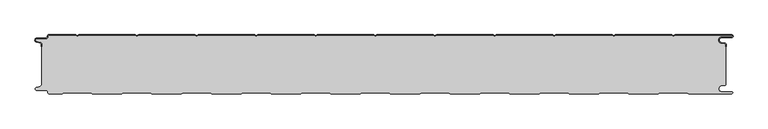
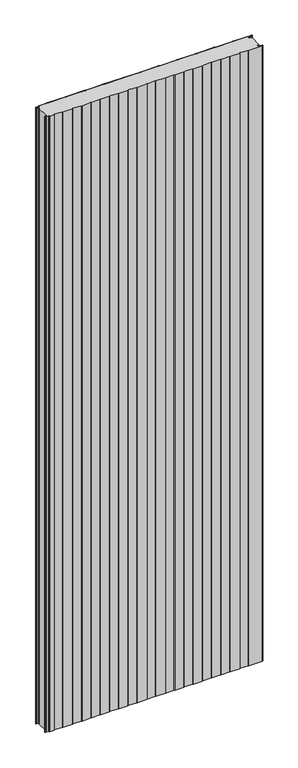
"""IFC4 building model written with IfcOpenShell, lengths in millimetres: plate geometry, Curtain-Panel_Doble-Panel-Acústico_Perfil-estándar-PM1 : ACH_Doble-Panel-Acústico_PM1_100-200-100."""

from ifc_helpers import new_model, si_unit, point, frame, frame_2d, origin, origin_with_axes, place, context, project, spatial, polyline, circle_curve, trimmed, segment, composite_curve, outline, extrude, source, transform, mapped, element, save
from ifc_brep_helpers import plane_surface, cylinder_surface, revolved_surface, advanced_brep


def plate_ad094080(model_context):
    return source(origin(), model_context, "Body", "SolidModel", [
        advanced_brep(
        [(-575.0, -315.878557, 3500.0), (-575.0, -320.0, 3500.0), (-574.2, -320.0, 3500.0), (-574.2, -315.878557, 3500.0), (-576.370137, -313.1503208, 3500.0), (-582.529863, -311.728236, 3500.0), (-581.9, -306.2, 3500.0), (-566.4, -306.2, 3500.0), (-563.6, -303.4, 3500.0), (-563.6, -302.0, 3500.0), (-562.4, -300.8, 3500.0), (-517.3143588, -300.8, 3500.0), (-514.4, -302.482606, 3500.0), (-511.4856412, -300.8, 3500.0), (-417.3143588, -300.8, 3500.0), (-414.4, -302.482606, 3500.0), (-411.4856412, -300.8, 3500.0), (-317.3143588, -300.8, 3500.0), (-314.4, -302.482606, 3500.0), (-311.4856412, -300.8, 3500.0), (-217.3143588, -300.8, 3500.0), (-214.4, -302.482606, 3500.0), (-211.4856412, -300.8, 3500.0), (-117.3143588, -300.8, 3500.0), (-114.4, -302.482606, 3500.0), (-111.4856412, -300.8, 3500.0), (-17.3143588, -300.8, 3500.0), (-14.4, -302.482606, 3500.0), (-11.4856412, -300.8, 3500.0), (82.6856412, -300.8, 3500.0), (85.6, -302.482606, 3500.0), (88.5143588, -300.8, 3500.0), (182.6856412, -300.8, 3500.0), (185.6, -302.482606, 3500.0), (188.5143588, -300.8, 3500.0), (282.6856412, -300.8, 3500.0), (285.6, -302.482606, 3500.0), (288.5143588, -300.8, 3500.0), (382.6856412, -300.8, 3500.0), (385.6, -302.482606, 3500.0), (388.5143588, -300.8, 3500.0), (482.6856412, -300.8, 3500.0), (485.6, -302.482606, 3500.0), (488.5143588, -300.8, 3500.0), (583.1, -300.8, 3500.0), (583.1, -304.2, 3500.0), (566.1, -304.2, 3500.0), (565.2664884, -313.7270771, 3500.0), (571.7125669, -314.8636953, 3500.0), (573.2, -316.6363492, 3500.0), (573.2, -320.0, 3500.0), (574.0, -320.0, 3500.0), (574.0, -316.6363492, 3500.0), (571.8514855, -314.0758491, 3500.0), (565.405407, -312.939231, 3500.0), (566.1, -305.0, 3500.0), (583.1, -305.0, 3500.0), (585.6, -302.5, 3500.0), (583.1, -300.0, 3500.0), (488.2999995, -300.0, 3500.0), (485.6, -301.5588455, 3500.0), (482.9000005, -300.0, 3500.0), (388.2999995, -300.0, 3500.0), (385.6, -301.5588455, 3500.0), (382.9000005, -300.0, 3500.0), (288.2999995, -300.0, 3500.0), (285.6, -301.5588455, 3500.0), (282.9000005, -300.0, 3500.0), (188.2999995, -300.0, 3500.0), (185.6, -301.5588455, 3500.0), (182.9000005, -300.0, 3500.0), (88.2999995, -300.0, 3500.0), (85.6, -301.5588455, 3500.0), (82.9000005, -300.0, 3500.0), (-11.7000005, -300.0, 3500.0), (-14.4, -301.5588455, 3500.0), (-17.0999995, -300.0, 3500.0), (-111.7000005, -300.0, 3500.0), (-114.4, -301.5588455, 3500.0), (-117.0999995, -300.0, 3500.0), (-211.7000005, -300.0, 3500.0), (-214.4, -301.5588455, 3500.0), (-217.0999995, -300.0, 3500.0), (-311.7000005, -300.0, 3500.0), (-314.4, -301.5588455, 3500.0), (-317.0999995, -300.0, 3500.0), (-411.7000005, -300.0, 3500.0), (-414.4, -301.5588455, 3500.0), (-417.0999995, -300.0, 3500.0), (-511.7000005, -300.0, 3500.0), (-514.4, -301.5588455, 3500.0), (-517.0999995, -300.0, 3500.0), (-562.4, -300.0, 3500.0), (-564.4, -302.0, 3500.0), (-564.4, -303.4, 3500.0), (-566.4, -305.4, 3500.0), (-581.9, -305.4, 3500.0), (-582.7098239, -312.5077322, 3500.0), (-576.5500979, -313.929817, 3500.0), (-575.0, -315.878557, 0.0), (-576.5500978, -313.9298169, 0.0), (-582.7098239, -312.507732, 0.0), (-581.9, -305.4, 0.0), (-566.4, -305.4, 0.0), (-564.4, -303.4, 0.0), (-564.4, -302.0, 0.0), (-562.4, -300.0, 0.0), (-517.0999995, -300.0, 0.0), (-514.4, -301.5588455, 0.0), (-511.7000005, -300.0, 0.0), (-417.0999995, -300.0, 0.0), (-414.4, -301.5588455, 0.0), (-411.7000005, -300.0, 0.0), (-317.0999995, -300.0, 0.0), (-314.4, -301.5588455, 0.0), (-311.7000005, -300.0, 0.0), (-217.0999995, -300.0, 0.0), (-214.4, -301.5588455, 0.0), (-211.7000005, -300.0, 0.0), (-117.0999995, -300.0, 0.0), (-114.4, -301.5588455, 0.0), (-111.7000005, -300.0, 0.0), (-17.0999995, -300.0, 0.0), (-14.4, -301.5588455, 0.0), (-11.7000005, -300.0, 0.0), (82.9000005, -300.0, 0.0), (85.6, -301.5588455, 0.0), (88.2999995, -300.0, 0.0), (182.9000005, -300.0, 0.0), (185.6, -301.5588455, 0.0), (188.2999995, -300.0, 0.0), (282.9000005, -300.0, 0.0), (285.6, -301.5588455, 0.0), (288.2999995, -300.0, 0.0), (382.9000005, -300.0, 0.0), (385.6, -301.5588455, 0.0), (388.2999995, -300.0, 0.0), (482.9000005, -300.0, 0.0), (485.6, -301.5588455, 0.0), (488.2999995, -300.0, 0.0), (583.1, -300.0, 0.0), (585.6, -302.5, 0.0), (583.1, -305.0, 0.0), (566.1, -305.0, 0.0), (565.405407, -312.939231, 0.0), (571.8514855, -314.0758491, 0.0), (574.0, -316.6363492, 0.0), (574.0, -320.0, 0.0), (573.2, -320.0, 0.0), (573.2, -316.6363492, 0.0), (571.7125669, -314.8636953, 0.0), (565.2664884, -313.7270772, 0.0), (566.1, -304.2, 0.0), (583.1, -304.2, 0.0), (583.1, -300.8, 0.0), (488.5143588, -300.8, 0.0), (485.6, -302.482606, 0.0), (482.6856412, -300.8, 0.0), (388.5143588, -300.8, 0.0), (385.6, -302.482606, 0.0), (382.6856412, -300.8, 0.0), (288.5143588, -300.8, 0.0), (285.6, -302.482606, 0.0), (282.6856412, -300.8, 0.0), (188.5143588, -300.8, 0.0), (185.6, -302.482606, 0.0), (182.6856412, -300.8, 0.0), (88.5143588, -300.8, 0.0), (85.6, -302.482606, 0.0), (82.6856412, -300.8, 0.0), (-11.4856412, -300.8, 0.0), (-14.4, -302.482606, 0.0), (-17.3143588, -300.8, 0.0), (-111.4856412, -300.8, 0.0), (-114.4, -302.482606, 0.0), (-117.3143588, -300.8, 0.0), (-211.4856412, -300.8, 0.0), (-214.4, -302.482606, 0.0), (-217.3143588, -300.8, 0.0), (-311.4856412, -300.8, 0.0), (-314.4, -302.482606, 0.0), (-317.3143588, -300.8, 0.0), (-411.4856412, -300.8, 0.0), (-414.4, -302.482606, 0.0), (-417.3143588, -300.8, 0.0), (-511.4856412, -300.8, 0.0), (-514.4, -302.482606, 0.0), (-517.3143588, -300.8, 0.0), (-562.4, -300.8, 0.0), (-563.6, -302.0, 0.0), (-563.6, -303.4, 0.0), (-566.4, -306.2, 0.0), (-581.9, -306.2, 0.0), (-582.529863, -311.7282362, 0.0), (-576.370137, -313.150321, 0.0), (-574.2, -315.878557, 0.0), (-574.2, -320.0, 0.0), (-575.0, -320.0, 0.0)],
        [
            (0, 1),
            (1, 2),
            (2, 3),
            (3, 4, circle_curve(frame((-577.0, -315.878557, 3500.0), z_axis=(0.0, 0.0, 1.0), x_axis=(1.0, 0.0, 0.0)), 2.8)),
            (4, 5),
            (5, 6, circle_curve(frame((-581.9, -309.0, 3500.0), z_axis=(0.0, 0.0, -1.0), x_axis=(1.0, 0.0, 0.0)), 2.8)),
            (6, 7),
            (7, 8, circle_curve(frame((-566.4, -303.4, 3500.0), z_axis=(0.0, 0.0, 1.0), x_axis=(1.0, 0.0, 0.0)), 2.8)),
            (8, 9),
            (9, 10, circle_curve(frame((-562.4, -302.0, 3500.0), z_axis=(0.0, 0.0, -1.0), x_axis=(1.0, 0.0, 0.0)), 1.2)),
            (10, 11),
            (11, 12),
            (12, 13),
            (13, 14),
            (14, 15),
            (15, 16),
            (16, 17),
            (17, 18),
            (18, 19),
            (19, 20),
            (20, 21),
            (21, 22),
            (22, 23),
            (23, 24),
            (24, 25),
            (25, 26),
            (26, 27),
            (27, 28),
            (28, 29),
            (29, 30),
            (30, 31),
            (31, 32),
            (32, 33),
            (33, 34),
            (34, 35),
            (35, 36),
            (36, 37),
            (37, 38),
            (38, 39),
            (39, 40),
            (40, 41),
            (41, 42),
            (42, 43),
            (43, 44),
            (44, 45, circle_curve(frame((583.1, -302.5, 3500.0), z_axis=(0.0, 0.0, -1.0), x_axis=(1.0, 0.0, 0.0)), 1.7)),
            (45, 46),
            (46, 47, circle_curve(frame((566.1, -309.0, 3500.0), z_axis=(0.0, 0.0, 1.0), x_axis=(1.0, 0.0, 0.0)), 4.8)),
            (47, 48),
            (48, 49, circle_curve(frame((571.4, -316.6363492, 3500.0), z_axis=(0.0, 0.0, -1.0), x_axis=(1.0, 0.0, 0.0)), 1.8)),
            (49, 50),
            (50, 51),
            (51, 52),
            (52, 53, circle_curve(frame((571.4, -316.6363492, 3500.0), z_axis=(0.0, 0.0, 1.0), x_axis=(1.0, 0.0, 0.0)), 2.6)),
            (53, 54),
            (54, 55, circle_curve(frame((566.1, -309.0, 3500.0), z_axis=(0.0, 0.0, -1.0), x_axis=(1.0, 0.0, 0.0)), 4.0)),
            (55, 56),
            (56, 57, circle_curve(frame((583.1, -302.5, 3500.0), z_axis=(0.0, 0.0, 1.0), x_axis=(1.0, 0.0, 0.0)), 2.5)),
            (57, 58, circle_curve(frame((583.1, -302.5, 3500.0), z_axis=(0.0, 0.0, 1.0), x_axis=(1.0, 0.0, 0.0)), 2.5)),
            (58, 59),
            (59, 60),
            (60, 61),
            (61, 62),
            (62, 63),
            (63, 64),
            (64, 65),
            (65, 66),
            (66, 67),
            (67, 68),
            (68, 69),
            (69, 70),
            (70, 71),
            (71, 72),
            (72, 73),
            (73, 74),
            (74, 75),
            (75, 76),
            (76, 77),
            (77, 78),
            (78, 79),
            (79, 80),
            (80, 81),
            (81, 82),
            (82, 83),
            (83, 84),
            (84, 85),
            (85, 86),
            (86, 87),
            (87, 88),
            (88, 89),
            (89, 90),
            (90, 91),
            (91, 92),
            (92, 93, circle_curve(frame((-562.4, -302.0, 3500.0), z_axis=(0.0, 0.0, 1.0), x_axis=(1.0, 0.0, 0.0)), 2.0)),
            (93, 94),
            (94, 95, circle_curve(frame((-566.4, -303.4, 3500.0), z_axis=(0.0, 0.0, -1.0), x_axis=(1.0, 0.0, 0.0)), 2.0)),
            (95, 96),
            (96, 97, circle_curve(frame((-581.9, -309.0, 3500.0), z_axis=(0.0, 0.0, 1.0), x_axis=(1.0, 0.0, 0.0)), 3.6)),
            (97, 98),
            (98, 0, circle_curve(frame((-577.0, -315.878557, 3500.0), z_axis=(0.0, 0.0, -1.0), x_axis=(1.0, 0.0, 0.0)), 2.0)),
            (99, 100, circle_curve(frame((-577.0, -315.878557, 0.0), z_axis=(0.0, 0.0, 1.0), x_axis=(1.0, 0.0, 0.0)), 2.0)),
            (100, 101),
            (101, 102, circle_curve(frame((-581.9, -309.0, 0.0), z_axis=(0.0, 0.0, -1.0), x_axis=(1.0, 0.0, 0.0)), 3.6)),
            (102, 103),
            (103, 104, circle_curve(frame((-566.4, -303.4, 0.0), z_axis=(0.0, 0.0, 1.0), x_axis=(1.0, 0.0, 0.0)), 2.0)),
            (104, 105),
            (105, 106, circle_curve(frame((-562.4, -302.0, 0.0), z_axis=(0.0, 0.0, -1.0), x_axis=(1.0, 0.0, 0.0)), 2.0)),
            (106, 107),
            (107, 108),
            (108, 109),
            (109, 110),
            (110, 111),
            (111, 112),
            (112, 113),
            (113, 114),
            (114, 115),
            (115, 116),
            (116, 117),
            (117, 118),
            (118, 119),
            (119, 120),
            (120, 121),
            (121, 122),
            (122, 123),
            (123, 124),
            (124, 125),
            (125, 126),
            (126, 127),
            (127, 128),
            (128, 129),
            (129, 130),
            (130, 131),
            (131, 132),
            (132, 133),
            (133, 134),
            (134, 135),
            (135, 136),
            (136, 137),
            (137, 138),
            (138, 139),
            (139, 140),
            (140, 141, circle_curve(frame((583.1, -302.5, 0.0), z_axis=(0.0, 0.0, -1.0), x_axis=(1.0, 0.0, 0.0)), 2.5)),
            (141, 142, circle_curve(frame((583.1, -302.5, 0.0), z_axis=(0.0, 0.0, -1.0), x_axis=(1.0, 0.0, 0.0)), 2.5)),
            (142, 143),
            (143, 144, circle_curve(frame((566.1, -309.0, 0.0), z_axis=(0.0, 0.0, 1.0), x_axis=(1.0, 0.0, 0.0)), 4.0)),
            (144, 145),
            (145, 146, circle_curve(frame((571.4, -316.6363492, 0.0), z_axis=(0.0, 0.0, -1.0), x_axis=(1.0, 0.0, 0.0)), 2.6)),
            (146, 147),
            (147, 148),
            (148, 149),
            (149, 150, circle_curve(frame((571.4, -316.6363492, 0.0), z_axis=(0.0, 0.0, 1.0), x_axis=(1.0, 0.0, 0.0)), 1.8)),
            (150, 151),
            (151, 152, circle_curve(frame((566.1, -309.0, 0.0), z_axis=(0.0, 0.0, -1.0), x_axis=(1.0, 0.0, 0.0)), 4.8)),
            (152, 153),
            (153, 154, circle_curve(frame((583.1, -302.5, 0.0), z_axis=(0.0, 0.0, 1.0), x_axis=(1.0, 0.0, 0.0)), 1.7)),
            (154, 155),
            (155, 156),
            (156, 157),
            (157, 158),
            (158, 159),
            (159, 160),
            (160, 161),
            (161, 162),
            (162, 163),
            (163, 164),
            (164, 165),
            (165, 166),
            (166, 167),
            (167, 168),
            (168, 169),
            (169, 170),
            (170, 171),
            (171, 172),
            (172, 173),
            (173, 174),
            (174, 175),
            (175, 176),
            (176, 177),
            (177, 178),
            (178, 179),
            (179, 180),
            (180, 181),
            (181, 182),
            (182, 183),
            (183, 184),
            (184, 185),
            (185, 186),
            (186, 187),
            (187, 188),
            (188, 189, circle_curve(frame((-562.4, -302.0, 0.0), z_axis=(0.0, 0.0, 1.0), x_axis=(1.0, 0.0, 0.0)), 1.2)),
            (189, 190),
            (190, 191, circle_curve(frame((-566.4, -303.4, 0.0), z_axis=(0.0, 0.0, -1.0), x_axis=(1.0, 0.0, 0.0)), 2.8)),
            (191, 192),
            (192, 193, circle_curve(frame((-581.9, -309.0, 0.0), z_axis=(0.0, 0.0, 1.0), x_axis=(1.0, 0.0, 0.0)), 2.8)),
            (193, 194),
            (194, 195, circle_curve(frame((-577.0, -315.878557, 0.0), z_axis=(0.0, 0.0, -1.0), x_axis=(1.0, 0.0, 0.0)), 2.8)),
            (195, 196),
            (196, 197),
            (197, 99),
            (0, 99),
            (197, 1),
            (196, 2),
            (195, 3),
            (194, 4),
            (193, 5),
            (192, 6),
            (191, 7),
            (190, 8),
            (189, 9),
            (188, 10),
            (187, 11),
            (186, 12),
            (185, 13),
            (184, 14),
            (183, 15),
            (182, 16),
            (181, 17),
            (180, 18),
            (179, 19),
            (178, 20),
            (177, 21),
            (176, 22),
            (175, 23),
            (174, 24),
            (173, 25),
            (172, 26),
            (171, 27),
            (170, 28),
            (169, 29),
            (168, 30),
            (167, 31),
            (166, 32),
            (165, 33),
            (164, 34),
            (163, 35),
            (162, 36),
            (161, 37),
            (160, 38),
            (159, 39),
            (158, 40),
            (157, 41),
            (156, 42),
            (155, 43),
            (154, 44),
            (153, 45),
            (152, 46),
            (151, 47),
            (150, 48),
            (149, 49),
            (148, 50),
            (147, 51),
            (146, 52),
            (145, 53),
            (144, 54),
            (143, 55),
            (142, 56),
            (140, 58),
            (139, 59),
            (138, 60),
            (137, 61),
            (136, 62),
            (135, 63),
            (134, 64),
            (133, 65),
            (132, 66),
            (131, 67),
            (130, 68),
            (129, 69),
            (128, 70),
            (127, 71),
            (126, 72),
            (125, 73),
            (124, 74),
            (123, 75),
            (122, 76),
            (121, 77),
            (120, 78),
            (119, 79),
            (118, 80),
            (117, 81),
            (116, 82),
            (115, 83),
            (114, 84),
            (113, 85),
            (112, 86),
            (111, 87),
            (110, 88),
            (109, 89),
            (108, 90),
            (107, 91),
            (106, 92),
            (105, 93),
            (104, 94),
            (103, 95),
            (102, 96),
            (101, 97),
            (100, 98),
        ],
        [
            plane_surface(frame((-575.0, -300.0, 3500.0), z_axis=(0.0, 0.0, 1.0), x_axis=(0.0, 1.0, 0.0))),
            plane_surface(frame((-575.0, -300.0, 0.0), z_axis=(0.0, 0.0, -1.0), x_axis=(0.0, 1.0, 0.0))),
            plane_surface(frame((-575.0, -315.878557, 3500.0), z_axis=(-1.0, 0.0, 0.0), x_axis=(0.0, 0.0, -1.0))),
            plane_surface(frame((-575.0, -320.0, 3500.0), z_axis=(0.0, -1.0, 0.0), x_axis=(0.0, 0.0, -1.0))),
            plane_surface(frame((-574.2, -320.0, 3500.0), z_axis=(1.0, 0.0, 0.0), x_axis=(0.0, 0.0, -1.0))),
            cylinder_surface(frame((-577.0, -315.878557, 3500.0), z_axis=(0.0, 0.0, 1.0), x_axis=(1.0, 0.0, 0.0)), 2.8),
            plane_surface(frame((-576.370137, -313.150321, 3500.0), z_axis=(0.22495108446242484, 0.9743700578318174, 0.0), x_axis=(0.0, 0.0, -1.0))),
            revolved_surface(polyline([(-579.1, -309.0, 0.0), (-579.1, -309.0, 3500.0)]), (-581.9, -309.0, 3500.0), (0.0, 0.0, -1.0)),
            plane_surface(frame((-581.9, -306.2, 3500.0), z_axis=(0.0, -1.0, 0.0), x_axis=(0.0, 0.0, -1.0))),
            cylinder_surface(frame((-566.4, -303.4, 3500.0), z_axis=(0.0, 0.0, 1.0), x_axis=(1.0, 0.0, 0.0)), 2.8),
            plane_surface(frame((-563.6, -303.4, 3500.0), z_axis=(1.0, 0.0, 0.0), x_axis=(0.0, 0.0, -1.0))),
            revolved_surface(polyline([(-561.1999999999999, -302.0, 0.0), (-561.1999999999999, -302.0, 3500.0)]), (-562.4, -302.0, 3500.0), (0.0, 0.0, -1.0)),
            plane_surface(frame((-562.4, -300.8, 3500.0), z_axis=(0.0, -1.0, 0.0), x_axis=(0.0, 0.0, -1.0))),
            plane_surface(frame((-517.3143588, -300.8, 3500.0), z_axis=(-0.5000000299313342, -0.8660253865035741, 0.0), x_axis=(0.0, 0.0, -1.0))),
            plane_surface(frame((-514.4, -302.482606, 3500.0), z_axis=(0.5000000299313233, -0.8660253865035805, 0.0), x_axis=(0.0, 0.0, -1.0))),
            plane_surface(frame((-511.4856412, -300.8, 3500.0), z_axis=(0.0, -1.0, 0.0), x_axis=(0.0, 0.0, -1.0))),
            plane_surface(frame((-417.3143588, -300.8, 3500.0), z_axis=(-0.5000000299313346, -0.8660253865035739, 0.0), x_axis=(0.0, 0.0, -1.0))),
            plane_surface(frame((-414.4, -302.482606, 3500.0), z_axis=(0.5000000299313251, -0.8660253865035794, 0.0), x_axis=(0.0, 0.0, -1.0))),
            plane_surface(frame((-411.4856412, -300.8, 3500.0), z_axis=(0.0, -1.0, 0.0), x_axis=(0.0, 0.0, -1.0))),
            plane_surface(frame((-317.3143588, -300.8, 3500.0), z_axis=(-0.5000000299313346, -0.866025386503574, 0.0), x_axis=(0.0, 0.0, -1.0))),
            plane_surface(frame((-314.4, -302.482606, 3500.0), z_axis=(0.5000000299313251, -0.8660253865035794, 0.0), x_axis=(0.0, 0.0, -1.0))),
            plane_surface(frame((-311.4856412, -300.8, 3500.0), z_axis=(0.0, -1.0, 0.0), x_axis=(0.0, 0.0, -1.0))),
            plane_surface(frame((-217.3143588, -300.8, 3500.0), z_axis=(-0.5000000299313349, -0.8660253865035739, 0.0), x_axis=(0.0, 0.0, -1.0))),
            plane_surface(frame((-214.4, -302.482606, 3500.0), z_axis=(0.5000000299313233, -0.8660253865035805, 0.0), x_axis=(0.0, 0.0, -1.0))),
            plane_surface(frame((-211.4856412, -300.8, 3500.0), z_axis=(0.0, -1.0, 0.0), x_axis=(0.0, 0.0, -1.0))),
            plane_surface(frame((-117.3143588, -300.8, 3500.0), z_axis=(-0.5000000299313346, -0.866025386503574, 0.0), x_axis=(0.0, 0.0, -1.0))),
            plane_surface(frame((-114.4, -302.482606, 3500.0), z_axis=(0.5000000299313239, -0.8660253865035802, 0.0), x_axis=(0.0, 0.0, -1.0))),
            plane_surface(frame((-111.4856412, -300.8, 3500.0), z_axis=(0.0, -1.0, 0.0), x_axis=(0.0, 0.0, -1.0))),
            plane_surface(frame((-17.3143588, -300.8, 3500.0), z_axis=(-0.5000000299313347, -0.8660253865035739, 0.0), x_axis=(0.0, 0.0, -1.0))),
            plane_surface(frame((-14.4, -302.482606, 3500.0), z_axis=(0.5000000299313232, -0.8660253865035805, 0.0), x_axis=(0.0, 0.0, -1.0))),
            plane_surface(frame((-11.4856412, -300.8, 3500.0), z_axis=(0.0, -1.0, 0.0), x_axis=(0.0, 0.0, -1.0))),
            plane_surface(frame((82.6856412, -300.8, 3500.0), z_axis=(-0.5000000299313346, -0.866025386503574, 0.0), x_axis=(0.0, 0.0, -1.0))),
            plane_surface(frame((85.6, -302.482606, 3500.0), z_axis=(0.5000000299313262, -0.8660253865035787, 0.0), x_axis=(0.0, 0.0, -1.0))),
            plane_surface(frame((88.5143588, -300.8, 3500.0), z_axis=(0.0, -1.0, 0.0), x_axis=(0.0, 0.0, -1.0))),
            plane_surface(frame((182.6856412, -300.8, 3500.0), z_axis=(-0.5000000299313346, -0.8660253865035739, 0.0), x_axis=(0.0, 0.0, -1.0))),
            plane_surface(frame((185.6, -302.482606, 3500.0), z_axis=(0.5000000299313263, -0.8660253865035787, 0.0), x_axis=(0.0, 0.0, -1.0))),
            plane_surface(frame((188.5143588, -300.8, 3500.0), z_axis=(0.0, -1.0, 0.0), x_axis=(0.0, 0.0, -1.0))),
            plane_surface(frame((282.6856412, -300.8, 3500.0), z_axis=(-0.5000000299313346, -0.8660253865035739, 0.0), x_axis=(0.0, 0.0, -1.0))),
            plane_surface(frame((285.6, -302.482606, 3500.0), z_axis=(0.5000000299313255, -0.8660253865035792, 0.0), x_axis=(0.0, 0.0, -1.0))),
            plane_surface(frame((288.5143588, -300.8, 3500.0), z_axis=(0.0, -1.0, 0.0), x_axis=(0.0, 0.0, -1.0))),
            plane_surface(frame((382.6856412, -300.8, 3500.0), z_axis=(-0.5000000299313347, -0.8660253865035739, 0.0), x_axis=(0.0, 0.0, -1.0))),
            plane_surface(frame((385.6, -302.482606, 3500.0), z_axis=(0.5000000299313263, -0.8660253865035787, 0.0), x_axis=(0.0, 0.0, -1.0))),
            plane_surface(frame((388.5143588, -300.8, 3500.0), z_axis=(0.0, -1.0, 0.0), x_axis=(0.0, 0.0, -1.0))),
            plane_surface(frame((482.6856412, -300.8, 3500.0), z_axis=(-0.5000000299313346, -0.866025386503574, 0.0), x_axis=(0.0, 0.0, -1.0))),
            plane_surface(frame((485.6, -302.482606, 3500.0), z_axis=(0.5000000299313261, -0.8660253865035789, 0.0), x_axis=(0.0, 0.0, -1.0))),
            plane_surface(frame((535.6, -300.8, 3500.0), z_axis=(0.0, -1.0, 0.0), x_axis=(0.0, 0.0, -1.0))),
            revolved_surface(polyline([(584.8000000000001, -302.5, 0.0), (584.8000000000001, -302.5, 3500.0)]), (583.1, -302.5, 3500.0), (0.0, 0.0, -1.0)),
            plane_surface(frame((583.1, -304.2, 3500.0), z_axis=(0.0, 1.0, 0.0), x_axis=(0.0, 0.0, -1.0))),
            cylinder_surface(frame((566.1, -309.0, 3500.0), z_axis=(0.0, 0.0, 1.0), x_axis=(1.0, 0.0, 0.0)), 4.8),
            plane_surface(frame((565.2664884, -313.7270772, 3500.0), z_axis=(-0.17364825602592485, -0.9848077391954, 0.0), x_axis=(0.0, 0.0, -1.0))),
            revolved_surface(polyline([(573.1999999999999, -316.6363492, 0.0), (573.1999999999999, -316.6363492, 3500.0)]), (571.4, -316.6363492, 3500.0), (0.0, 0.0, -1.0)),
            plane_surface(frame((573.2, -316.6363492, 3500.0), z_axis=(-1.0, 0.0, 0.0), x_axis=(0.0, 0.0, -1.0))),
            plane_surface(frame((573.2, -320.0, 3500.0), z_axis=(0.0, -1.0, 0.0), x_axis=(0.0, 0.0, -1.0))),
            plane_surface(frame((574.0, -320.0, 3500.0), z_axis=(1.0, 0.0, 0.0), x_axis=(0.0, 0.0, -1.0))),
            cylinder_surface(frame((571.4, -316.6363492, 3500.0), z_axis=(0.0, 0.0, 1.0), x_axis=(1.0, 0.0, 0.0)), 2.6),
            plane_surface(frame((571.8514855, -314.0758491, 3500.0), z_axis=(0.1736482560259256, 0.9848077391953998, 0.0), x_axis=(0.0, 0.0, -1.0))),
            revolved_surface(polyline([(570.1, -309.0, 0.0), (570.1, -309.0, 3500.0)]), (566.1, -309.0, 3500.0), (0.0, 0.0, -1.0)),
            plane_surface(frame((566.1, -305.0, 3500.0), z_axis=(0.0, -1.0, 0.0), x_axis=(0.0, 0.0, -1.0))),
            cylinder_surface(frame((583.1, -302.5, 3500.0), z_axis=(0.0, 0.0, 1.0), x_axis=(1.0, 0.0, 0.0)), 2.5),
            plane_surface(frame((535.6, -300.0, 3500.0), z_axis=(0.0, 1.0, 0.0), x_axis=(0.0, 0.0, -1.0))),
            plane_surface(frame((488.2999995, -300.0, 3500.0), z_axis=(-0.5000000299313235, 0.8660253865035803, 0.0), x_axis=(0.0, 0.0, -1.0))),
            plane_surface(frame((485.6, -301.5588455, 3500.0), z_axis=(0.5000000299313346, 0.8660253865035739, 0.0), x_axis=(0.0, 0.0, -1.0))),
            plane_surface(frame((482.9000005, -300.0, 3500.0), z_axis=(0.0, 1.0, 0.0), x_axis=(0.0, 0.0, -1.0))),
            plane_surface(frame((388.2999995, -300.0, 3500.0), z_axis=(-0.5000000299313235, 0.8660253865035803, 0.0), x_axis=(0.0, 0.0, -1.0))),
            plane_surface(frame((385.6, -301.5588455, 3500.0), z_axis=(0.5000000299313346, 0.8660253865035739, 0.0), x_axis=(0.0, 0.0, -1.0))),
            plane_surface(frame((382.9000005, -300.0, 3500.0), z_axis=(0.0, 1.0, 0.0), x_axis=(0.0, 0.0, -1.0))),
            plane_surface(frame((288.2999995, -300.0, 3500.0), z_axis=(-0.5000000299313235, 0.8660253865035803, 0.0), x_axis=(0.0, 0.0, -1.0))),
            plane_surface(frame((285.6, -301.5588455, 3500.0), z_axis=(0.5000000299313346, 0.8660253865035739, 0.0), x_axis=(0.0, 0.0, -1.0))),
            plane_surface(frame((282.9000005, -300.0, 3500.0), z_axis=(0.0, 1.0, 0.0), x_axis=(0.0, 0.0, -1.0))),
            plane_surface(frame((188.2999995, -300.0, 3500.0), z_axis=(-0.5000000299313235, 0.8660253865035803, 0.0), x_axis=(0.0, 0.0, -1.0))),
            plane_surface(frame((185.6, -301.5588455, 3500.0), z_axis=(0.5000000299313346, 0.8660253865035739, 0.0), x_axis=(0.0, 0.0, -1.0))),
            plane_surface(frame((182.9000005, -300.0, 3500.0), z_axis=(0.0, 1.0, 0.0), x_axis=(0.0, 0.0, -1.0))),
            plane_surface(frame((88.2999995, -300.0, 3500.0), z_axis=(-0.5000000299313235, 0.8660253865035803, 0.0), x_axis=(0.0, 0.0, -1.0))),
            plane_surface(frame((85.6, -301.5588455, 3500.0), z_axis=(0.5000000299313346, 0.8660253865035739, 0.0), x_axis=(0.0, 0.0, -1.0))),
            plane_surface(frame((82.9000005, -300.0, 3500.0), z_axis=(0.0, 1.0, 0.0), x_axis=(0.0, 0.0, -1.0))),
            plane_surface(frame((-11.7000005, -300.0, 3500.0), z_axis=(-0.5000000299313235, 0.8660253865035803, 0.0), x_axis=(0.0, 0.0, -1.0))),
            plane_surface(frame((-14.4, -301.5588455, 3500.0), z_axis=(0.5000000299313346, 0.8660253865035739, 0.0), x_axis=(0.0, 0.0, -1.0))),
            plane_surface(frame((-17.0999995, -300.0, 3500.0), z_axis=(0.0, 1.0, 0.0), x_axis=(0.0, 0.0, -1.0))),
            plane_surface(frame((-111.7000005, -300.0, 3500.0), z_axis=(-0.5000000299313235, 0.8660253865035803, 0.0), x_axis=(0.0, 0.0, -1.0))),
            plane_surface(frame((-114.4, -301.5588455, 3500.0), z_axis=(0.5000000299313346, 0.8660253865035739, 0.0), x_axis=(0.0, 0.0, -1.0))),
            plane_surface(frame((-117.0999995, -300.0, 3500.0), z_axis=(0.0, 1.0, 0.0), x_axis=(0.0, 0.0, -1.0))),
            plane_surface(frame((-211.7000005, -300.0, 3500.0), z_axis=(-0.5000000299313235, 0.8660253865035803, 0.0), x_axis=(0.0, 0.0, -1.0))),
            plane_surface(frame((-214.4, -301.5588455, 3500.0), z_axis=(0.5000000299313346, 0.8660253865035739, 0.0), x_axis=(0.0, 0.0, -1.0))),
            plane_surface(frame((-217.0999995, -300.0, 3500.0), z_axis=(0.0, 1.0, 0.0), x_axis=(0.0, 0.0, -1.0))),
            plane_surface(frame((-311.7000005, -300.0, 3500.0), z_axis=(-0.5000000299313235, 0.8660253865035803, 0.0), x_axis=(0.0, 0.0, -1.0))),
            plane_surface(frame((-314.4, -301.5588455, 3500.0), z_axis=(0.5000000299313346, 0.8660253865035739, 0.0), x_axis=(0.0, 0.0, -1.0))),
            plane_surface(frame((-317.0999995, -300.0, 3500.0), z_axis=(0.0, 1.0, 0.0), x_axis=(0.0, 0.0, -1.0))),
            plane_surface(frame((-411.7000005, -300.0, 3500.0), z_axis=(-0.5000000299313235, 0.8660253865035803, 0.0), x_axis=(0.0, 0.0, -1.0))),
            plane_surface(frame((-414.4, -301.5588455, 3500.0), z_axis=(0.5000000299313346, 0.8660253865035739, 0.0), x_axis=(0.0, 0.0, -1.0))),
            plane_surface(frame((-417.0999995, -300.0, 3500.0), z_axis=(0.0, 1.0, 0.0), x_axis=(0.0, 0.0, -1.0))),
            plane_surface(frame((-511.7000005, -300.0, 3500.0), z_axis=(-0.5000000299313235, 0.8660253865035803, 0.0), x_axis=(0.0, 0.0, -1.0))),
            plane_surface(frame((-514.4, -301.5588455, 3500.0), z_axis=(0.5000000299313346, 0.8660253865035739, 0.0), x_axis=(0.0, 0.0, -1.0))),
            plane_surface(frame((-517.0999995, -300.0, 3500.0), z_axis=(0.0, 1.0, 0.0), x_axis=(0.0, 0.0, -1.0))),
            cylinder_surface(frame((-562.4, -302.0, 3500.0), z_axis=(0.0, 0.0, 1.0), x_axis=(1.0, 0.0, 0.0)), 2.0),
            plane_surface(frame((-564.4, -302.0, 3500.0), z_axis=(-1.0, 0.0, 0.0), x_axis=(0.0, 0.0, -1.0))),
            revolved_surface(polyline([(-564.4, -303.4, 0.0), (-564.4, -303.4, 3500.0)]), (-566.4, -303.4, 3500.0), (0.0, 0.0, -1.0)),
            plane_surface(frame((-566.4, -305.4, 3500.0), z_axis=(0.0, 1.0, 0.0), x_axis=(0.0, 0.0, -1.0))),
            cylinder_surface(frame((-581.9, -309.0, 3500.0), z_axis=(0.0, 0.0, 1.0), x_axis=(1.0, 0.0, 0.0)), 3.6),
            plane_surface(frame((-582.7098239, -312.507732, 3500.0), z_axis=(-0.22495108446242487, -0.9743700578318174, 0.0), x_axis=(0.0, 0.0, -1.0))),
            revolved_surface(polyline([(-575.0, -315.878557, 0.0), (-575.0, -315.878557, 3500.0)]), (-577.0, -315.878557, 3500.0), (0.0, 0.0, -1.0)),
        ],
        [
            (0, [[1, 2, 3, 4, 5, 6, 7, 8, 9, 10, 11, 12, 13, 14, 15, 16, 17, 18, 19, 20, 21, 22, 23, 24, 25, 26, 27, 28, 29, 30, 31, 32, 33, 34, 35, 36, 37, 38, 39, 40, 41, 42, 43, 44, 45, 46, 47, 48, 49, 50, 51, 52, 53, 54, 55, 56, 57, 58, 59, 60, 61, 62, 63, 64, 65, 66, 67, 68, 69, 70, 71, 72, 73, 74, 75, 76, 77, 78, 79, 80, 81, 82, 83, 84, 85, 86, 87, 88, 89, 90, 91, 92, 93, 94, 95, 96, 97, 98, 99]]),
            (1, [[100, 101, 102, 103, 104, 105, 106, 107, 108, 109, 110, 111, 112, 113, 114, 115, 116, 117, 118, 119, 120, 121, 122, 123, 124, 125, 126, 127, 128, 129, 130, 131, 132, 133, 134, 135, 136, 137, 138, 139, 140, 141, 142, 143, 144, 145, 146, 147, 148, 149, 150, 151, 152, 153, 154, 155, 156, 157, 158, 159, 160, 161, 162, 163, 164, 165, 166, 167, 168, 169, 170, 171, 172, 173, 174, 175, 176, 177, 178, 179, 180, 181, 182, 183, 184, 185, 186, 187, 188, 189, 190, 191, 192, 193, 194, 195, 196, 197, 198]]),
            (2, [[-1, 199, -198, 200]]),
            (3, [[-2, -200, -197, 201]]),
            (4, [[-3, -201, -196, 202]]),
            (5, [[-4, -202, -195, 203]]),
            (6, [[-5, -203, -194, 204]]),
            (7, [[-6, -204, -193, 205]]),
            (8, [[-7, -205, -192, 206]]),
            (9, [[-8, -206, -191, 207]]),
            (10, [[-9, -207, -190, 208]]),
            (11, [[-10, -208, -189, 209]]),
            (12, [[-11, -209, -188, 210]]),
            (13, [[-12, -210, -187, 211]]),
            (14, [[-13, -211, -186, 212]]),
            (15, [[-14, -212, -185, 213]]),
            (16, [[-15, -213, -184, 214]]),
            (17, [[-16, -214, -183, 215]]),
            (18, [[-17, -215, -182, 216]]),
            (19, [[-18, -216, -181, 217]]),
            (20, [[-19, -217, -180, 218]]),
            (21, [[-20, -218, -179, 219]]),
            (22, [[-21, -219, -178, 220]]),
            (23, [[-22, -220, -177, 221]]),
            (24, [[-23, -221, -176, 222]]),
            (25, [[-24, -222, -175, 223]]),
            (26, [[-25, -223, -174, 224]]),
            (27, [[-26, -224, -173, 225]]),
            (28, [[-27, -225, -172, 226]]),
            (29, [[-28, -226, -171, 227]]),
            (30, [[-29, -227, -170, 228]]),
            (31, [[-30, -228, -169, 229]]),
            (32, [[-31, -229, -168, 230]]),
            (33, [[-32, -230, -167, 231]]),
            (34, [[-33, -231, -166, 232]]),
            (35, [[-34, -232, -165, 233]]),
            (36, [[-35, -233, -164, 234]]),
            (37, [[-36, -234, -163, 235]]),
            (38, [[-37, -235, -162, 236]]),
            (39, [[-38, -236, -161, 237]]),
            (40, [[-39, -237, -160, 238]]),
            (41, [[-40, -238, -159, 239]]),
            (42, [[-41, -239, -158, 240]]),
            (43, [[-42, -240, -157, 241]]),
            (44, [[-43, -241, -156, 242]]),
            (45, [[-44, -242, -155, 243]]),
            (46, [[-45, -243, -154, 244]]),
            (47, [[-46, -244, -153, 245]]),
            (48, [[-47, -245, -152, 246]]),
            (49, [[-48, -246, -151, 247]]),
            (50, [[-49, -247, -150, 248]]),
            (51, [[-50, -248, -149, 249]]),
            (52, [[-51, -249, -148, 250]]),
            (53, [[-52, -250, -147, 251]]),
            (54, [[-53, -251, -146, 252]]),
            (55, [[-54, -252, -145, 253]]),
            (56, [[-55, -253, -144, 254]]),
            (57, [[-56, -254, -143, 255]]),
            (58, [[-255, -142, -141, 256, -58, -57]]),
            (59, [[-59, -256, -140, 257]]),
            (60, [[-60, -257, -139, 258]]),
            (61, [[-61, -258, -138, 259]]),
            (62, [[-62, -259, -137, 260]]),
            (63, [[-63, -260, -136, 261]]),
            (64, [[-64, -261, -135, 262]]),
            (65, [[-65, -262, -134, 263]]),
            (66, [[-66, -263, -133, 264]]),
            (67, [[-67, -264, -132, 265]]),
            (68, [[-68, -265, -131, 266]]),
            (69, [[-69, -266, -130, 267]]),
            (70, [[-70, -267, -129, 268]]),
            (71, [[-71, -268, -128, 269]]),
            (72, [[-72, -269, -127, 270]]),
            (73, [[-73, -270, -126, 271]]),
            (74, [[-74, -271, -125, 272]]),
            (75, [[-75, -272, -124, 273]]),
            (76, [[-76, -273, -123, 274]]),
            (77, [[-77, -274, -122, 275]]),
            (78, [[-78, -275, -121, 276]]),
            (79, [[-79, -276, -120, 277]]),
            (80, [[-80, -277, -119, 278]]),
            (81, [[-81, -278, -118, 279]]),
            (82, [[-82, -279, -117, 280]]),
            (83, [[-83, -280, -116, 281]]),
            (84, [[-84, -281, -115, 282]]),
            (85, [[-85, -282, -114, 283]]),
            (86, [[-86, -283, -113, 284]]),
            (87, [[-87, -284, -112, 285]]),
            (88, [[-88, -285, -111, 286]]),
            (89, [[-89, -286, -110, 287]]),
            (90, [[-90, -287, -109, 288]]),
            (91, [[-91, -288, -108, 289]]),
            (92, [[-92, -289, -107, 290]]),
            (93, [[-93, -290, -106, 291]]),
            (94, [[-94, -291, -105, 292]]),
            (95, [[-95, -292, -104, 293]]),
            (96, [[-96, -293, -103, 294]]),
            (97, [[-97, -294, -102, 295]]),
            (98, [[-98, -295, -101, 296]]),
            (99, [[-99, -296, -100, -199]]),
        ],
    ),
        extrude(outline(composite_curve([segment(polyline([(-574.2, -384.121443), (-574.2, -315.8785573)]), True, "CONTINUOUS"), segment(trimmed(circle_curve(frame_2d((-577.0, -315.8785573)), 2.8), [point((-574.2, -315.8785573))], [point((-576.370137, -313.1503212))], True, "CARTESIAN"), True, "CONTINUOUS"), segment(polyline([(-576.370137, -313.1503212), (-582.5298631, -311.7282362)]), True, "CONTINUOUS"), segment(trimmed(circle_curve(frame_2d((-581.9, -309.0)), 2.8), [point((-582.5298631, -311.7282362))], [point((-581.9, -306.2))], False, "CARTESIAN"), True, "CONTINUOUS"), segment(polyline([(-581.9, -306.2), (-566.4000001, -306.2)]), True, "CONTINUOUS"), segment(trimmed(circle_curve(frame_2d((-566.4000001, -303.4)), 2.8), [point((-566.4000001, -306.2))], [point((-563.6000001, -303.4))], True, "CARTESIAN"), True, "CONTINUOUS"), segment(polyline([(-563.6000001, -303.4), (-563.6000001, -302.0)]), True, "CONTINUOUS"), segment(trimmed(circle_curve(frame_2d((-562.4000001, -302.0)), 1.2), [point((-563.6000001, -302.0))], [point((-562.4000001, -300.8))], False, "CARTESIAN"), True, "CONTINUOUS"), segment(polyline([(-562.4000001, -300.8), (-517.3143589, -300.8), (-514.4000001, -302.482606), (-511.4856412, -300.8), (-417.3143589, -300.8), (-414.4000001, -302.482606), (-411.4856412, -300.8), (-317.3143589, -300.8), (-314.4000001, -302.482606), (-311.4856412, -300.8), (-217.3143589, -300.8), (-214.4000001, -302.482606), (-211.4856412, -300.8), (-117.3143589, -300.8), (-114.4000001, -302.482606), (-111.4856412, -300.8), (-17.3143589, -300.8), (-14.4000001, -302.482606), (-11.4856412, -300.8), (82.6856411, -300.8), (85.5999999, -302.482606), (88.5143588, -300.8), (182.6856411, -300.8), (185.5999999, -302.482606), (188.5143588, -300.8), (282.6856411, -300.8), (285.5999999, -302.482606), (288.5143588, -300.8), (382.6856411, -300.8), (385.5999999, -302.482606), (388.5143588, -300.8), (482.6856411, -300.8), (485.6, -302.482606), (488.5143588, -300.8), (583.1, -300.8)]), True, "CONTINUOUS"), segment(trimmed(circle_curve(frame_2d((583.1, -302.5)), 1.7), [point((583.1, -300.8))], [point((583.1, -304.2))], False, "CARTESIAN"), True, "CONTINUOUS"), segment(polyline([(583.1, -304.2), (566.1, -304.2)]), True, "CONTINUOUS"), segment(trimmed(circle_curve(frame_2d((566.1, -309.0)), 4.8), [point((566.1, -304.2))], [point((565.2664883, -313.7270771))], True, "CARTESIAN"), True, "CONTINUOUS"), segment(polyline([(565.2664883, -313.7270771), (571.7125668, -314.8636953)]), True, "CONTINUOUS"), segment(trimmed(circle_curve(frame_2d((571.4, -316.6363492)), 1.8), [point((571.7125668, -314.8636953))], [point((573.2, -316.6363492))], False, "CARTESIAN"), True, "CONTINUOUS"), segment(polyline([(573.2, -316.6363492), (573.2, -383.363652)]), True, "CONTINUOUS"), segment(trimmed(circle_curve(frame_2d((571.4, -383.363652)), 1.8), [point((573.2, -383.363652))], [point((571.7125666, -385.1363059))], False, "CARTESIAN"), True, "CONTINUOUS"), segment(polyline([(571.7125666, -385.1363059), (565.266489, -386.272923)]), True, "CONTINUOUS"), segment(trimmed(circle_curve(frame_2d((566.1, -391.0000002)), 4.7999999), [point((565.266489, -386.272923))], [point((566.1, -395.8000001))], True, "CARTESIAN"), True, "CONTINUOUS"), segment(polyline([(566.1, -395.8000001), (583.1, -395.8000001)]), True, "CONTINUOUS"), segment(trimmed(circle_curve(frame_2d((583.1, -397.5)), 1.7), [point((583.1, -395.8000001))], [point((583.1, -399.2))], False, "CARTESIAN"), True, "CONTINUOUS"), segment(polyline([(583.1, -399.2), (510.8105122, -399.2), (508.2124346, -397.7), (462.9837184, -397.7), (460.3856408, -399.2), (410.8105122, -399.2), (408.2124346, -397.7), (362.9837184, -397.7), (360.3856408, -399.2), (310.8105122, -399.2), (308.2124346, -397.7), (262.9837184, -397.7), (260.3856408, -399.2), (210.8105122, -399.2), (208.2124346, -397.7), (162.9837184, -397.7), (160.3856408, -399.2), (110.8105122, -399.2), (108.2124346, -397.7), (62.9837184, -397.7), (60.3856408, -399.2), (10.8105122, -399.2), (8.2124346, -397.7), (-37.0162816, -397.7), (-39.6143592, -399.2), (-89.1894878, -399.2), (-91.7875654, -397.7), (-137.0162816, -397.7), (-139.6143592, -399.2), (-189.1894878, -399.2), (-191.7875654, -397.7), (-237.0162816, -397.7), (-239.6143592, -399.2), (-289.1894878, -399.2), (-291.7875654, -397.7), (-337.0162816, -397.7), (-339.6143592, -399.2), (-389.1894878, -399.2), (-391.7875654, -397.7), (-437.0162816, -397.7), (-439.6143592, -399.2), (-489.1894878, -399.2), (-491.7875654, -397.7), (-537.0162816, -397.7), (-539.6143592, -399.2), (-562.4, -399.2)]), True, "CONTINUOUS"), segment(trimmed(circle_curve(frame_2d((-562.4, -398.0)), 1.2), [point((-562.4, -399.2))], [point((-563.6, -398.0))], False, "CARTESIAN"), True, "CONTINUOUS"), segment(polyline([(-563.6, -398.0), (-563.6, -396.5999998)]), True, "CONTINUOUS"), segment(trimmed(circle_curve(frame_2d((-566.4, -396.5999998)), 2.8), [point((-563.6, -396.5999998))], [point((-566.4, -393.7999998))], True, "CARTESIAN"), True, "CONTINUOUS"), segment(polyline([(-566.4, -393.7999998), (-581.9, -393.7999998)]), True, "CONTINUOUS"), segment(trimmed(circle_curve(frame_2d((-581.9, -391.0)), 2.7999998), [point((-581.9, -393.7999998))], [point((-582.529863, -388.271764))], False, "CARTESIAN"), True, "CONTINUOUS"), segment(polyline([(-582.529863, -388.271764), (-576.370137, -386.8496792)]), True, "CONTINUOUS"), segment(trimmed(circle_curve(frame_2d((-577.0, -384.121443)), 2.8), [point((-576.370137, -386.8496792))], [point((-574.2, -384.121443))], True, "CARTESIAN"), True, "CONTINUOUS")], self_intersect=False)), origin_with_axes(), (0.0, 0.0, 1.0), 3500.0),
    ])


if __name__ == "__main__":
    model = new_model("IFC4")
    model_context = context("Model", 3, world=origin())
    ifc_project = project(units=[si_unit("LENGTHUNIT", "METRE", prefix="MILLI")], contexts=[model_context])
    site = spatial("IfcSite", under=ifc_project)
    building = spatial("IfcBuilding", under=site)
    placement = place(None, origin())
    plate_shape = plate_ad094080(model_context)
    element("IfcPlate", 1, ObjectType="Curtain-Panel_Doble-Panel-Acústico_Perfil-estándar-PM1 : ACH_Doble-Panel-Acústico_PM1_100-200-100", at=placement, inside=building, context=model_context, shape_type="MappedRepresentation", body=[
        mapped(plate_shape, transform((0.0, 0.0, 0.0), x_axis=(1.0, 0.0, 0.0), y_axis=(0.0, 1.0, 0.0), z_axis=(0.0, 0.0, 1.0))),
    ])
    save(model, "model.ifc")
